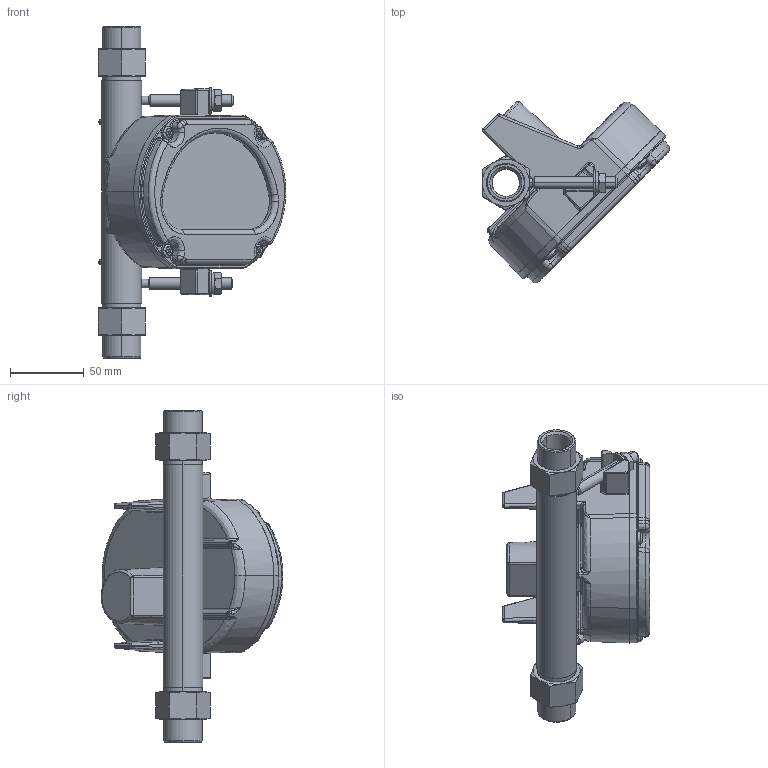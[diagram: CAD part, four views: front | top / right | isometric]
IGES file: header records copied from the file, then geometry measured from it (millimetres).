
Start section: SolidWorks IGES file using analytic representation for surfaces
Global section: file name: C:\Users\jodonnell\OneDrive - Illinois Tool Works, Inc\Desktop\3809G-D-08-B-1-A-0.IGS; native system: SolidWorks 2023; preprocessor: SolidWorks 2023; author: JODonnell; date: 250509.085529; units: millimetre
Bounding box: 127.13 x 123.1 x 225 mm (x, y, z)
Surface area: 153995.8 mm2 (no closed solid volume)
Topology: 0 solids, 0 shells, 1397 faces, 23661 edges, 23591 vertices
Faces by surface type: revolution 788, bspline 609
